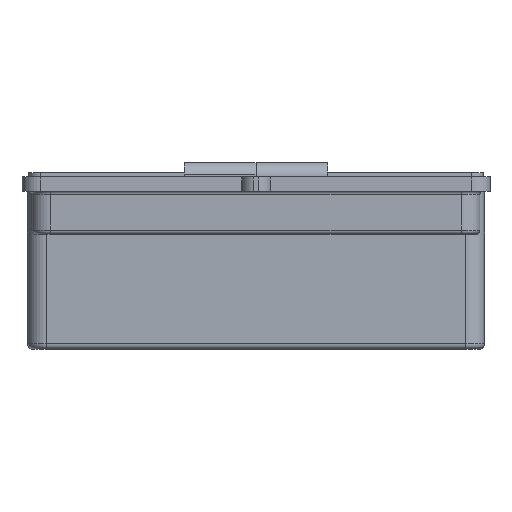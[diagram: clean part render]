
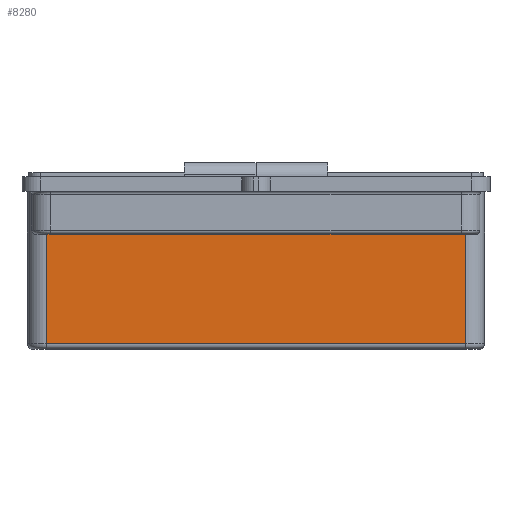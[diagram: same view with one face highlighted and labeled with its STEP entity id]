
A CAD part, left-side view. The second image highlights one B-rep face of the part: STEP entity #8280.
In plain terms, the highlighted planar face has unit normal (-1, 0, 0).
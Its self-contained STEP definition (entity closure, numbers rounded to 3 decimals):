
#247=PLANE('',#8854);
#493=LINE('',#12364,#1256);
#497=LINE('',#12373,#1260);
#498=LINE('',#12377,#1261);
#499=LINE('',#12379,#1262);
#500=LINE('',#12381,#1263);
#501=LINE('',#12383,#1264);
#502=LINE('',#12385,#1265);
#503=LINE('',#12386,#1266);
#1256=VECTOR('',#9793,10.);
#1260=VECTOR('',#9801,10.);
#1261=VECTOR('',#9806,10.);
#1262=VECTOR('',#9807,10.);
#1263=VECTOR('',#9808,10.);
#1264=VECTOR('',#9809,10.);
#1265=VECTOR('',#9810,10.);
#1266=VECTOR('',#9811,10.);
#2235=FACE_OUTER_BOUND('',#2717,.T.);
#2717=EDGE_LOOP('',(#5788,#5789,#5790,#5791,#5792,#5793,#5794,#5795));
#3672=VERTEX_POINT('',#12318);
#3687=VERTEX_POINT('',#12358);
#3690=VERTEX_POINT('',#12372);
#3691=VERTEX_POINT('',#12376);
#3692=VERTEX_POINT('',#12378);
#3693=VERTEX_POINT('',#12380);
#3694=VERTEX_POINT('',#12382);
#3695=VERTEX_POINT('',#12384);
#4517=EDGE_CURVE('',#3672,#3687,#493,.T.);
#4521=EDGE_CURVE('',#3687,#3690,#497,.T.);
#4523=EDGE_CURVE('',#3691,#3672,#498,.T.);
#4524=EDGE_CURVE('',#3691,#3692,#499,.T.);
#4525=EDGE_CURVE('',#3692,#3693,#500,.T.);
#4526=EDGE_CURVE('',#3693,#3694,#501,.T.);
#4527=EDGE_CURVE('',#3694,#3695,#502,.T.);
#4528=EDGE_CURVE('',#3695,#3690,#503,.T.);
#5788=ORIENTED_EDGE('',*,*,#4517,.F.);
#5789=ORIENTED_EDGE('',*,*,#4523,.F.);
#5790=ORIENTED_EDGE('',*,*,#4524,.T.);
#5791=ORIENTED_EDGE('',*,*,#4525,.T.);
#5792=ORIENTED_EDGE('',*,*,#4526,.T.);
#5793=ORIENTED_EDGE('',*,*,#4527,.T.);
#5794=ORIENTED_EDGE('',*,*,#4528,.T.);
#5795=ORIENTED_EDGE('',*,*,#4521,.F.);
#8280=ADVANCED_FACE('',(#2235),#247,.F.);
#8854=AXIS2_PLACEMENT_3D('',#12375,#9804,#9805);
#9793=DIRECTION('',(0.,1.,0.));
#9801=DIRECTION('',(0.,0.,1.));
#9804=DIRECTION('center_axis',(1.,0.,0.));
#9805=DIRECTION('ref_axis',(0.,0.,-1.));
#9806=DIRECTION('',(0.,0.,-1.));
#9807=DIRECTION('',(0.,1.,0.));
#9808=DIRECTION('',(0.,0.,-1.));
#9809=DIRECTION('',(0.,1.,0.));
#9810=DIRECTION('',(0.,0.,1.));
#9811=DIRECTION('',(0.,1.,0.));
#12318=CARTESIAN_POINT('',(-58.,-73.,2.));
#12358=CARTESIAN_POINT('',(-58.,73.,2.));
#12364=CARTESIAN_POINT('',(-58.,-40.7,2.));
#12372=CARTESIAN_POINT('',(-58.,73.,58.));
#12373=CARTESIAN_POINT('',(-58.,73.,58.));
#12375=CARTESIAN_POINT('Origin',(-58.,-81.4,58.));
#12376=CARTESIAN_POINT('',(-58.,-73.,58.));
#12377=CARTESIAN_POINT('',(-58.,-73.,29.));
#12378=CARTESIAN_POINT('',(-58.,0.,58.));
#12379=CARTESIAN_POINT('',(-58.,-81.4,58.));
#12380=CARTESIAN_POINT('',(-58.,0.,55.));
#12381=CARTESIAN_POINT('',(-58.,0.,56.5));
#12382=CARTESIAN_POINT('',(-58.,25.,55.));
#12383=CARTESIAN_POINT('',(-58.,-28.2,55.));
#12384=CARTESIAN_POINT('',(-58.,25.,58.));
#12385=CARTESIAN_POINT('',(-58.,25.,59.));
#12386=CARTESIAN_POINT('',(-58.,-81.4,58.));
